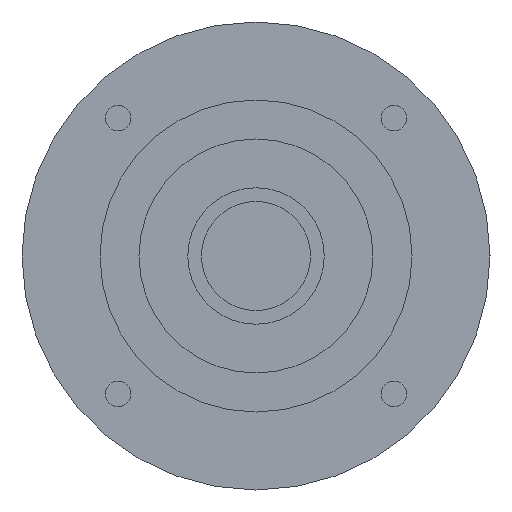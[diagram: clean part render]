
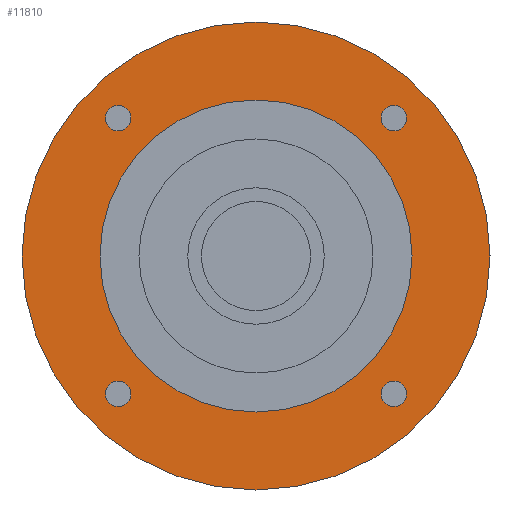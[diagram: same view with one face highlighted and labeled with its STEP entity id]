
A CAD part, left-side view. The second image highlights one B-rep face of the part: STEP entity #11810.
In plain terms, the highlighted planar face has unit normal (-1, 0, 0) as drawn and (0, 0, -1) by its records, which use the part's own axes.
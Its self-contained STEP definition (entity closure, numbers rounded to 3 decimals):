
#10640=CARTESIAN_POINT('',(60.,0.,-65.601));
#10650=VERTEX_POINT('',#10640);
#10680=CARTESIAN_POINT('',(0.,0.,
-65.601));
#10690=DIRECTION('',(0.,0.,-1.));
#10700=DIRECTION('',(0.,-1.,0.));
#10710=AXIS2_PLACEMENT_3D('',#10680,#10690,#10700);
#10720=CIRCLE('',#10710,60.);
#10730=CARTESIAN_POINT('',(0.,-60.,-65.601));
#10740=VERTEX_POINT('',#10730);
#10750=EDGE_CURVE('',#10650,#10740,#10720,.T.);
#10770=CARTESIAN_POINT('',(-60.,0.,-65.601));
#10780=VERTEX_POINT('',#10770);
#10790=EDGE_CURVE('',#10740,#10780,#10720,.T.);
#10910=CARTESIAN_POINT('',(0.,0.,
-65.601));
#10920=DIRECTION('',(0.,0.,-1.));
#10930=DIRECTION('',(1.,0.,0.));
#10940=AXIS2_PLACEMENT_3D('',#10910,#10920,#10930);
#10950=PLANE('',#10940);
#10960=CARTESIAN_POINT('',(35.355,35.355,-65.601));
#10970=DIRECTION('',(0.,0.,-1.));
#10980=DIRECTION('',(0.,1.,0.));
#10990=AXIS2_PLACEMENT_3D('',#10960,#10970,#10980);
#11000=CIRCLE('',#10990,3.25);
#11010=CARTESIAN_POINT('',(35.355,38.605,-65.601));
#11020=VERTEX_POINT('',#11010);
#11030=CARTESIAN_POINT('',(35.355,32.105,-65.601));
#11040=VERTEX_POINT('',#11030);
#11050=EDGE_CURVE('',#11020,#11040,#11000,.T.);
#11060=ORIENTED_EDGE('',*,*,#11050,.F.);
#11070=EDGE_CURVE('',#11040,#11020,#11000,.T.);
#11080=ORIENTED_EDGE('',*,*,#11070,.F.);
#11090=EDGE_LOOP('',(#11080,#11060));
#11100=FACE_BOUND('',#11090,.T.);
#11110=CARTESIAN_POINT('',(-35.355,35.355,-65.601));
#11120=DIRECTION('',(0.,0.,-1.));
#11130=DIRECTION('',(-1.,0.,0.));
#11140=AXIS2_PLACEMENT_3D('',#11110,#11120,#11130);
#11150=CIRCLE('',#11140,3.25);
#11160=CARTESIAN_POINT('',(-38.605,35.355,-65.601));
#11170=VERTEX_POINT('',#11160);
#11180=CARTESIAN_POINT('',(-32.105,35.355,-65.601));
#11190=VERTEX_POINT('',#11180);
#11200=EDGE_CURVE('',#11170,#11190,#11150,.T.);
#11210=ORIENTED_EDGE('',*,*,#11200,.F.);
#11220=EDGE_CURVE('',#11190,#11170,#11150,.T.);
#11230=ORIENTED_EDGE('',*,*,#11220,.F.);
#11240=EDGE_LOOP('',(#11230,#11210));
#11250=FACE_BOUND('',#11240,.T.);
#11260=CARTESIAN_POINT('',(-35.355,-35.355,-65.601))
;
#11270=DIRECTION('',(0.,0.,-1.));
#11280=DIRECTION('',(0.,-1.,0.));
#11290=AXIS2_PLACEMENT_3D('',#11260,#11270,#11280);
#11300=CIRCLE('',#11290,3.25);
#11310=CARTESIAN_POINT('',(-35.355,-38.605,-65.601))
;
#11320=VERTEX_POINT('',#11310);
#11330=CARTESIAN_POINT('',(-35.355,-32.105,-65.601))
;
#11340=VERTEX_POINT('',#11330);
#11350=EDGE_CURVE('',#11320,#11340,#11300,.T.);
#11360=ORIENTED_EDGE('',*,*,#11350,.F.);
#11370=EDGE_CURVE('',#11340,#11320,#11300,.T.);
#11380=ORIENTED_EDGE('',*,*,#11370,.F.);
#11390=EDGE_LOOP('',(#11380,#11360));
#11400=FACE_BOUND('',#11390,.T.);
#11410=CARTESIAN_POINT('',(0.,0.,
-65.601));
#11420=DIRECTION('',(0.,0.,1.));
#11430=DIRECTION('',(0.,1.,0.));
#11440=AXIS2_PLACEMENT_3D('',#11410,#11420,#11430);
#11450=CIRCLE('',#11440,40.);
#11460=CARTESIAN_POINT('',(-40.,0.,-65.601));
#11470=VERTEX_POINT('',#11460);
#11480=CARTESIAN_POINT('',(40.,0.,-65.601));
#11490=VERTEX_POINT('',#11480);
#11500=EDGE_CURVE('',#11470,#11490,#11450,.T.);
#11510=ORIENTED_EDGE('',*,*,#11500,.T.);
#11520=CARTESIAN_POINT('',(0.,40.,-65.601));
#11530=VERTEX_POINT('',#11520);
#11540=EDGE_CURVE('',#11530,#11470,#11450,.T.);
#11550=ORIENTED_EDGE('',*,*,#11540,.T.);
#11560=EDGE_CURVE('',#11490,#11530,#11450,.T.);
#11570=ORIENTED_EDGE('',*,*,#11560,.T.);
#11580=EDGE_LOOP('',(#11570,#11550,#11510));
#11590=FACE_BOUND('',#11580,.T.);
#11600=CARTESIAN_POINT('',(35.355,-35.355,-65.601));
#11610=DIRECTION('',(0.,0.,-1.));
#11620=DIRECTION('',(1.,0.,0.));
#11630=AXIS2_PLACEMENT_3D('',#11600,#11610,#11620);
#11640=CIRCLE('',#11630,3.25);
#11650=CARTESIAN_POINT('',(38.605,-35.355,-65.601));
#11660=VERTEX_POINT('',#11650);
#11670=CARTESIAN_POINT('',(32.105,-35.355,-65.601));
#11680=VERTEX_POINT('',#11670);
#11690=EDGE_CURVE('',#11660,#11680,#11640,.T.);
#11700=ORIENTED_EDGE('',*,*,#11690,.F.);
#11710=EDGE_CURVE('',#11680,#11660,#11640,.T.);
#11720=ORIENTED_EDGE('',*,*,#11710,.F.);
#11730=EDGE_LOOP('',(#11720,#11700));
#11740=FACE_BOUND('',#11730,.T.);
#11750=EDGE_CURVE('',#10780,#10650,#10720,.T.);
#11760=ORIENTED_EDGE('',*,*,#11750,.T.);
#11770=ORIENTED_EDGE('',*,*,#10790,.T.);
#11780=ORIENTED_EDGE('',*,*,#10750,.T.);
#11790=EDGE_LOOP('',(#11780,#11770,#11760));
#11800=FACE_OUTER_BOUND('',#11790,.T.);
#11810=ADVANCED_FACE('',(#11100,#11250,#11400,#11590,#11740,#11800),
#10950,.T.);
